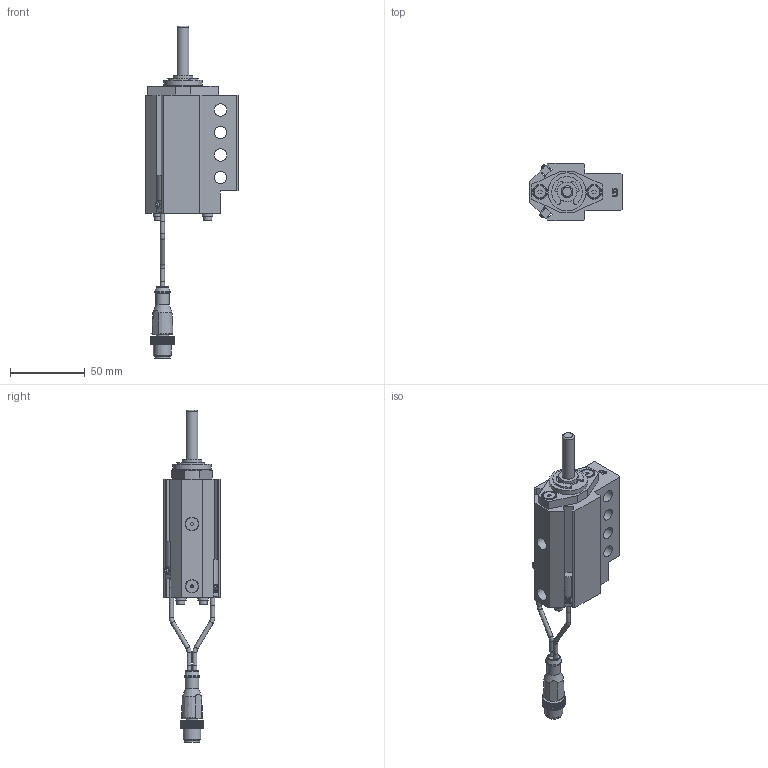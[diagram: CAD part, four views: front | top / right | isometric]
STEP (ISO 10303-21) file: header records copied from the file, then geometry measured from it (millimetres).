
FILE_DESCRIPTION(/* description */ ('NAAMS FLOATING MICRO PIN'),/* implementation_level */ '2;1');
FILE_NAME(/* name */ 'C:\Vault Workspace\CAD\Welker\Shot Pin\NMP\NMP080032EBNL3.stp',/* time_stamp */ '2021-01-28T11:55:27-05:00',/* author */ ('WELKER'),/* organization */ (''),/* preprocessor_version */ 'ST-DEVELOPER v18.1',/* originating_system */ 'Autodesk Inventor 2020',/* authorisation */ '');
FILE_SCHEMA (('AUTOMOTIVE_DESIGN { 1 0 10303 214 3 1 1 }'));
Length unit declared in the file: millimetre
Products named in the file (16): NMPL01; NMP L3 SWITCH; L3 Connector; L3 Sensor 1; L3 Sensor 2; L3 Sensor cable; L3 Sensor cable 2; M3X0.5-8 SHCS; NL3; NMPE06; NMPE03; NMPE04-DIA-LENGTH; 985432A218; NMPE01B-PORT; RMPE02; M5X5 SHOULDER
Assembly tree (22 placements, depth 3):
  NMPL01
    NMP L3 SWITCH
      L3 Connector
      L3 Sensor 1
      L3 Sensor 2
      L3 Sensor cable
      L3 Sensor cable 2
    M3X0.5-8 SHCS  x4
    NL3  x4
    NMPE06
    NMPE03
    NMPE04-DIA-LENGTH
    985432A218
    NMPE01B-PORT
    RMPE02
    M5X5 SHOULDER  x2
Bounding box: 62 x 38.1 x 221.52 mm (x, y, z)
Volume: 111460.1 mm3; surface area: 45620.8 mm2
Topology: 21 solids, 21 shells, 758 faces, 2049 edges, 1369 vertices
Faces by surface type: plane 554, cylinder 144, cone 31, bspline 16, torus 11, sphere 2
Full cylindrical faces by diameter (mm): 2 x2, 2.459 x4, 2.9 x10, 3 x5, 3.242 x2, 3.4 x4, 4 x2, 5 x6, 5.5 x4, 7 x4, 8 x3, 8.3 x2, 8.376 x2, 9 x3, 10 x3, 10.4 x1, 10.5 x1, 12 x1, 13 x3, 16 x2, 19.05 x3, 21 x1, 22.5 x1, 23.672 x1, 24 x1, 25.4 x1, 25.5 x1, 26.5 x1, 28.677 x1, 29.21 x1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
Entity records: 23171 total; most frequent: CARTESIAN_POINT 4361, ORIENTED_EDGE 3796, DIRECTION 3721, EDGE_CURVE 1898, LINE 1393, VECTOR 1393, VERTEX_POINT 1274, AXIS2_PLACEMENT_3D 1164
